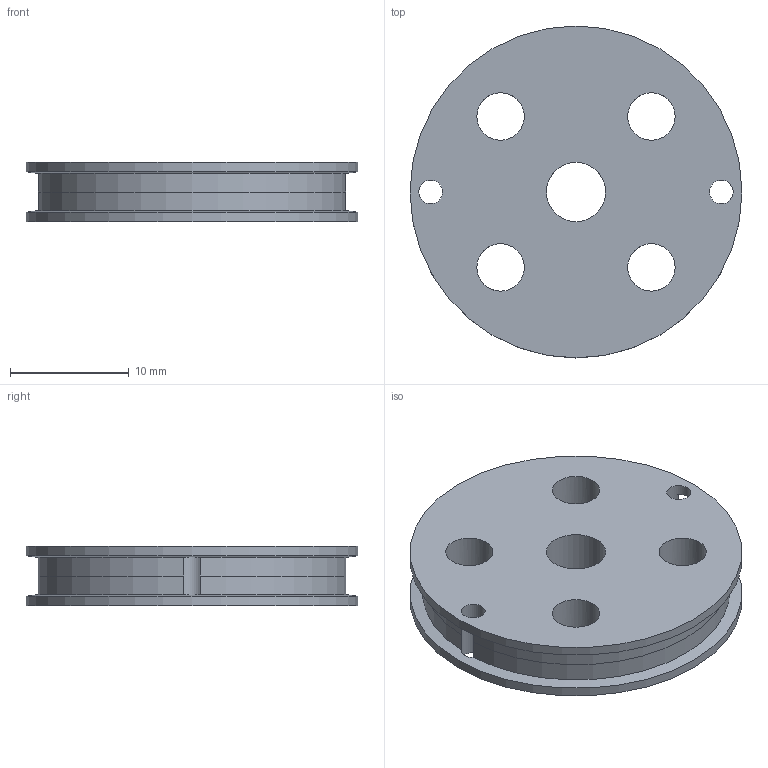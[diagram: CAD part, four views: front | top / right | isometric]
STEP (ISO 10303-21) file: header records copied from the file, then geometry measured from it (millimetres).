
FILE_DESCRIPTION( ('This file contains a STEP AP42 implementation' ,'as created by ZW3D STEP Interface translator.') ,'2;1' );
FILE_NAME( 'UPulley2.stp' ,'24 9 3.133236', (''), ('ZWCAD Software Co.'), 'Version 1.0', 'ZW3D to STEP translator', '' );
FILE_SCHEMA(('AUTOMOTIVE_DESIGN { 1 0 10303 214 1 1 1 1 }'));
Length unit declared in the file: millimetre
Products named in the file (2): 0; UPulley2
Bounding box: 28 x 28 x 5 mm (x, y, z)
Volume: 2368.4 mm3; surface area: 1996.7 mm2
Topology: 1 solids, 1 shells, 21 faces, 66 edges, 44 vertices
Faces by surface type: cylinder 13, bspline 4, plane 2, cone 2
Full cylindrical faces by diameter (mm): 2 x2, 4 x4, 5 x1, 28 x2
Entity records: 1111 total; most frequent: CARTESIAN_POINT 460, ORIENTED_EDGE 132, DIRECTION 108, EDGE_CURVE 66, VERTEX_POINT 44, AXIS2_PLACEMENT_3D 42, EDGE_LOOP 36, CIRCLE 24
